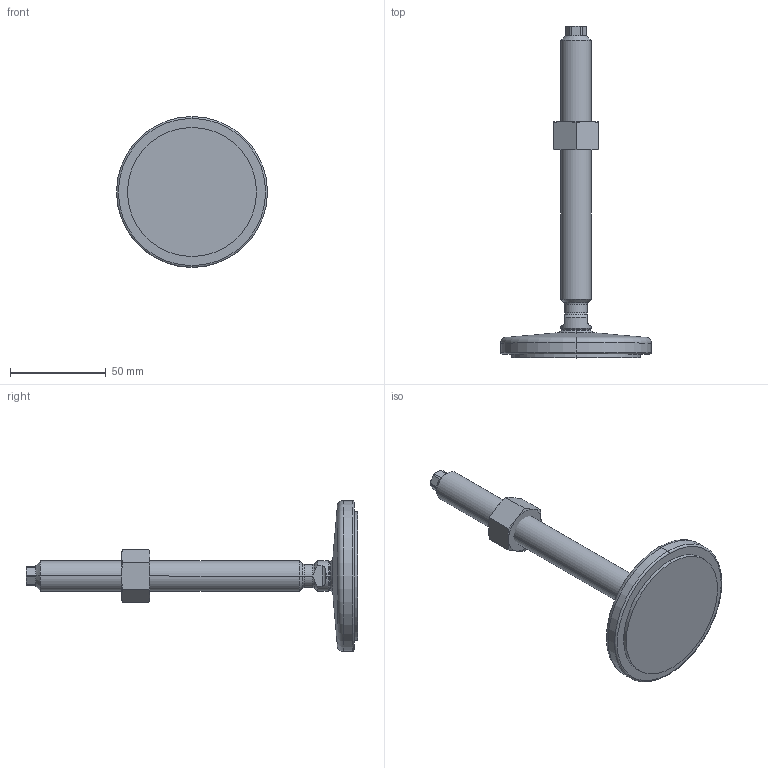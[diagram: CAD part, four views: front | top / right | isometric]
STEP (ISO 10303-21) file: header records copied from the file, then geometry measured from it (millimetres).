
FILE_DESCRIPTION (( 'STEP AP214' ), '1' );
FILE_NAME ('21-80-M16-150-D1-VK.step', '2020-10-02T17:36:29', ( '' ), ( '' ), 'SwSTEP 2.0', 'SolidWorks 2019', '' );
FILE_SCHEMA (( 'AUTOMOTIVE_DESIGN' ));
Length unit declared in the file: millimetre
Products named in the file (4): WB21_Fußteller 21^WB21_V_D1-080-R10-B7 (M8 M10_M12_M16); WB4032^WB21_V_M16; 21-80-M16-150-D1-VK; WB21_Spindel_V^WB21_V_M16-150
Assembly tree (3 placements, depth 2):
  21-80-M16-150-D1-VK
    WB21_Fußteller 21^WB21_V_D1-080-R10-B7 (M8 M10_M12_M16)
    WB21_Spindel_V^WB21_V_M16-150
    WB4032^WB21_V_M16
Bounding box: 79 x 173.64 x 79 mm (x, y, z)
Volume: 89763.1 mm3; surface area: 23082.1 mm2
Topology: 3 solids, 3 shells, 98 faces, 219 edges, 129 vertices
Faces by surface type: cone 29, plane 28, cylinder 27, torus 10, sphere 4
Entity records: 3121 total; most frequent: CARTESIAN_POINT 728, DIRECTION 476, ORIENTED_EDGE 438, EDGE_CURVE 219, AXIS2_PLACEMENT_3D 205, VERTEX_POINT 129, EDGE_LOOP 102, CIRCLE 101
